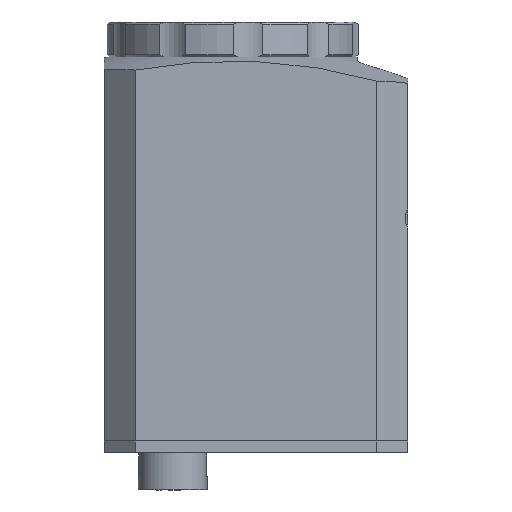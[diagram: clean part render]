
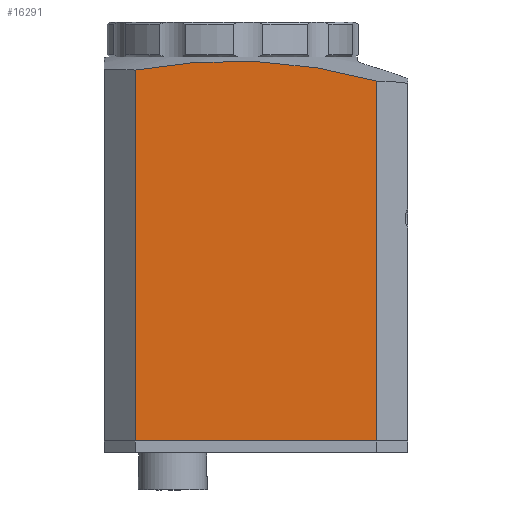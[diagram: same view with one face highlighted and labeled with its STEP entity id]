
A CAD part, left-side view. The second image highlights one B-rep face of the part: STEP entity #16291.
In plain terms, the highlighted planar face has unit normal (-1, 0, 0).
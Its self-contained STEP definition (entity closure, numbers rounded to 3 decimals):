
#195 = VERTEX_POINT ( 'NONE', #4970 ) ;
#398 = VERTEX_POINT ( 'NONE', #14153 ) ;
#605 = CARTESIAN_POINT ( 'NONE',  ( 55.688, -25.591, -16.605 ) ) ;
#717 = AXIS2_PLACEMENT_3D ( 'NONE', #7800, #13859, #16894 ) ;
#1318 = CARTESIAN_POINT ( 'NONE',  ( 55.688, -25.591, -16.605 ) ) ;
#1866 = EDGE_CURVE ( 'NONE', #19419, #398, #6074, .T. ) ;
#3827 = VERTEX_POINT ( 'NONE', #9041 ) ;
#4715 = DIRECTION ( 'NONE',  ( 1., 0., 0. ) ) ;
#4970 = CARTESIAN_POINT ( 'NONE',  ( 55.688, -25.591, 29.618 ) ) ;
#5344 = AXIS2_PLACEMENT_3D ( 'NONE', #16788, #4715, #15296 ) ;
#6074 = LINE ( 'NONE', #6461, #8332 ) ;
#6457 = EDGE_CURVE ( 'NONE', #3827, #19419, #13580, .T. ) ;
#6461 = CARTESIAN_POINT ( 'NONE',  ( 55.688, 5.409, -16.605 ) ) ;
#6992 = VECTOR ( 'NONE', #15608, 1000. ) ;
#7800 = CARTESIAN_POINT ( 'NONE',  ( 55.688, -7.091, -35.435 ) ) ;
#7997 = ORIENTED_EDGE ( 'NONE', *, *, #1866, .F. ) ;
#8040 = DIRECTION ( 'NONE',  ( 0., 0., 1. ) ) ;
#8317 = EDGE_CURVE ( 'NONE', #3827, #195, #18477, .T. ) ;
#8332 = VECTOR ( 'NONE', #8040, 1000. ) ;
#8929 = CIRCLE ( 'NONE', #717, 67.633 ) ;
#9041 = CARTESIAN_POINT ( 'NONE',  ( 55.688, -25.591, -16.605 ) ) ;
#9356 = EDGE_CURVE ( 'NONE', #195, #398, #8929, .T. ) ;
#9457 = ORIENTED_EDGE ( 'NONE', *, *, #9356, .T. ) ;
#10192 = ORIENTED_EDGE ( 'NONE', *, *, #6457, .F. ) ;
#10210 = DIRECTION ( 'NONE',  ( 0., 1., 0. ) ) ;
#10644 = PLANE ( 'NONE',  #5344 ) ;
#11933 = CARTESIAN_POINT ( 'NONE',  ( 55.688, 5.409, -16.605 ) ) ;
#12067 = FACE_OUTER_BOUND ( 'NONE', #14141, .T. ) ;
#13580 = LINE ( 'NONE', #1318, #13645 ) ;
#13645 = VECTOR ( 'NONE', #10210, 1000. ) ;
#13859 = DIRECTION ( 'NONE',  ( -1., 0., 0. ) ) ;
#14141 = EDGE_LOOP ( 'NONE', ( #17344, #9457, #7997, #10192 ) ) ;
#14153 = CARTESIAN_POINT ( 'NONE',  ( 55.688, 5.409, 31.033 ) ) ;
#15296 = DIRECTION ( 'NONE',  ( 0., -1., 0. ) ) ;
#15608 = DIRECTION ( 'NONE',  ( 0., 0., 1. ) ) ;
#16291 = ADVANCED_FACE ( 'NONE', ( #12067 ), #10644, .F. ) ;
#16788 = CARTESIAN_POINT ( 'NONE',  ( 55.688, -25.591, -16.605 ) ) ;
#16894 = DIRECTION ( 'NONE',  ( 0., -1., 0. ) ) ;
#17344 = ORIENTED_EDGE ( 'NONE', *, *, #8317, .T. ) ;
#18477 = LINE ( 'NONE', #605, #6992 ) ;
#19419 = VERTEX_POINT ( 'NONE', #11933 ) ;
